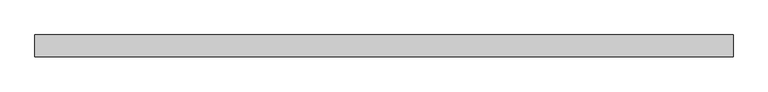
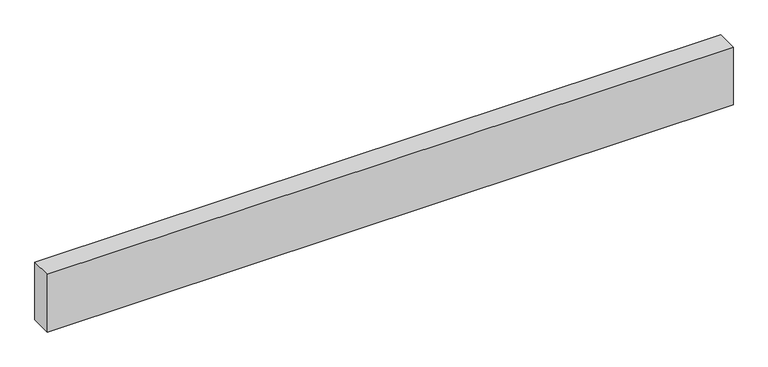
"""IFC4 building model written with IfcOpenShell, lengths in millimetres: proxy geometry."""

from ifc_helpers import new_model, si_unit, frame, origin, place, context, project, spatial, polyline, outline, extrude, source, transform, mapped, element, save


def structural_framing_d1db9ec2(model_context):
    return source(origin(), model_context, "Body", "SweptSolid", [
        extrude(outline(polyline([(-2247.75, -70.0), (-2247.75, 70.0), (2247.75, 70.0), (2247.75, -70.0), (-2247.75, -70.0)])), frame((0.0, 0.0, -400.0), z_axis=(0.0, 0.0, 1.0), x_axis=(1.0, 0.0, 0.0)), (0.0, 0.0, 1.0), 400.0),
    ])


if __name__ == "__main__":
    model = new_model("IFC4")
    model_context = context("Model", 3, world=origin())
    ifc_project = project(units=[si_unit("LENGTHUNIT", "METRE", prefix="MILLI")], contexts=[model_context])
    site = spatial("IfcSite", under=ifc_project)
    building = spatial("IfcBuilding", under=site)
    placement = place(None, origin())
    structural_framing_shape = structural_framing_d1db9ec2(model_context)
    element("IfcBuildingElementProxy", 1, Name="Structural Framing", at=placement, inside=building, context=model_context, shape_type="MappedRepresentation", body=[
        mapped(structural_framing_shape, transform((0.0, 0.0, 0.0), x_axis=(1.0, 0.0, 0.0), y_axis=(0.0, 1.0, 0.0), z_axis=(0.0, 0.0, 1.0))),
    ])
    save(model, "model.ifc")
